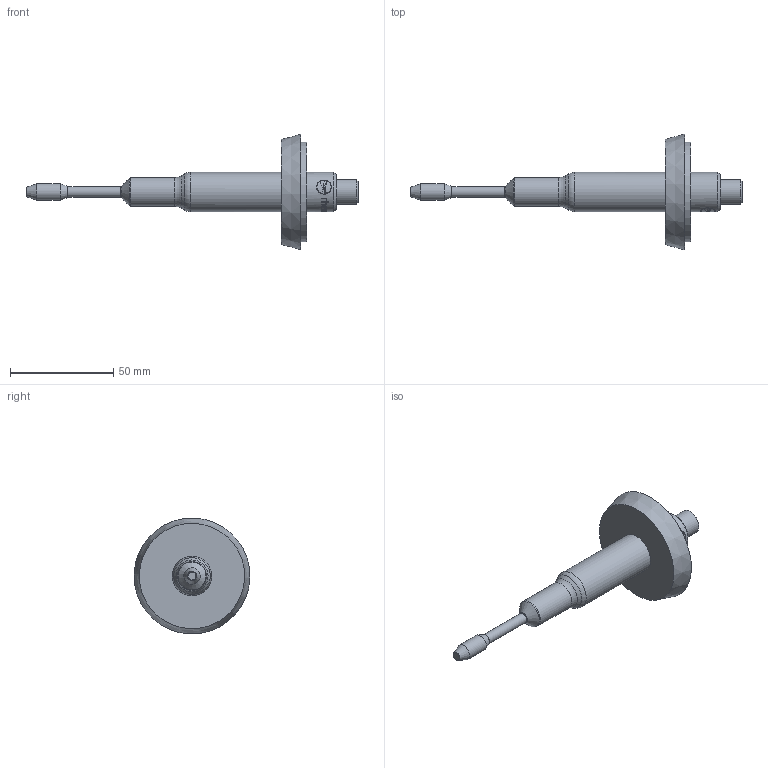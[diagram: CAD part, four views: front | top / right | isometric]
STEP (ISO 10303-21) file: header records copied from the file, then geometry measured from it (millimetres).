
FILE_DESCRIPTION(/* description */ ('Unknown'),/* implementation_level */ '2;1');
FILE_NAME(/* name */ 'SRV-SLP-A123-BH40',/* time_stamp */ '2023-10-26T13:46:20-05:00',/* author */ ('Unknown'),/* organization */ ('Unknown'),/* preprocessor_version */ 'ST-DEVELOPER v16.7',/* originating_system */ 'Solid Edge',/* authorisation */ 'Unknown');
FILE_SCHEMA (('AUTOMOTIVE_DESIGN {1 0 10303 214 3 1 1}'));
Length unit declared in the file: millimetre
Products named in the file (1): SRV-SLP-A123-BH40
Bounding box: 160.5 x 55.97 x 55.97 mm (x, y, z)
Volume: 50435.3 mm3; surface area: 13010.6 mm2
Topology: 1 solids, 1 shells, 166 faces, 428 edges, 283 vertices
Faces by surface type: bspline 72, cylinder 37, plane 35, cone 12, sphere 8, torus 2
Full cylindrical faces by diameter (mm): 0.8 x8, 5.019 x1, 8 x2, 12 x1, 13.9 x1, 19 x2, 48 x1
Entity records: 9275 total; most frequent: CARTESIAN_POINT 4861, ORIENTED_EDGE 728, DIRECTION 446, EDGE_CURVE 364, VERTEX_POINT 257, EDGE_LOOP 223, FACE_BOUND 223, B_SPLINE_CURVE_WITH_KNOTS 174
